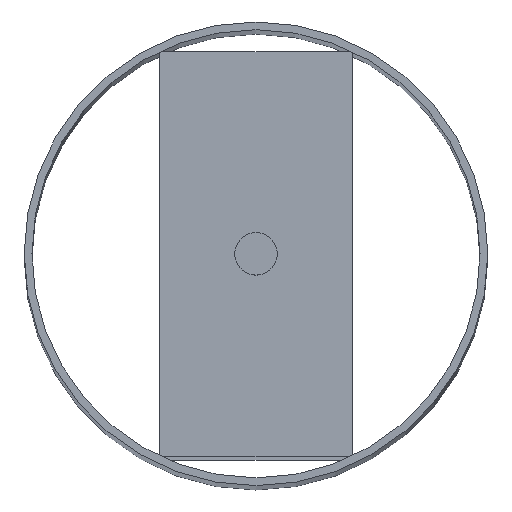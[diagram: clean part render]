
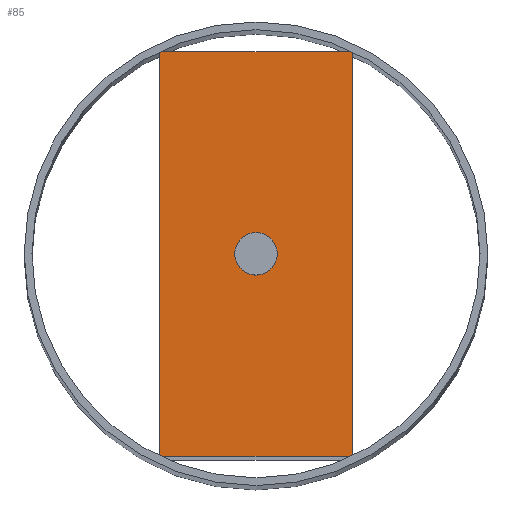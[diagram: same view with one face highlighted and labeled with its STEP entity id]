
A CAD part, top view. The second image highlights one B-rep face of the part: STEP entity #85.
In plain terms, the highlighted planar face has unit normal (0, 0, 1).
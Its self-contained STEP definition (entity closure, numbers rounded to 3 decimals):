
#85 = ADVANCED_FACE( '', ( #182, #183 ), #184, .T. );
#182 = FACE_BOUND( '', #271, .T. );
#183 = FACE_OUTER_BOUND( '', #272, .T. );
#184 = PLANE( '', #273 );
#271 = EDGE_LOOP( '', ( #463 ) );
#272 = EDGE_LOOP( '', ( #464, #465, #466, #467, #468, #469, #470, #471 ) );
#273 = AXIS2_PLACEMENT_3D( '', #472, #473, #474 );
#463 = ORIENTED_EDGE( '', *, *, #552, .T. );
#464 = ORIENTED_EDGE( '', *, *, #546, .T. );
#465 = ORIENTED_EDGE( '', *, *, #539, .T. );
#466 = ORIENTED_EDGE( '', *, *, #491, .T. );
#467 = ORIENTED_EDGE( '', *, *, #537, .T. );
#468 = ORIENTED_EDGE( '', *, *, #543, .T. );
#469 = ORIENTED_EDGE( '', *, *, #535, .T. );
#470 = ORIENTED_EDGE( '', *, *, #517, .T. );
#471 = ORIENTED_EDGE( '', *, *, #533, .T. );
#472 = CARTESIAN_POINT( '', ( 0., 0., 317. ) );
#473 = DIRECTION( '', ( 0., 0., 1. ) );
#474 = DIRECTION( '', ( 1., 0., 0. ) );
#491 = EDGE_CURVE( '', #581, #582, #583, .T. );
#517 = EDGE_CURVE( '', #625, #626, #627, .T. );
#533 = EDGE_CURVE( '', #626, #647, #649, .T. );
#535 = EDGE_CURVE( '', #650, #625, #652, .T. );
#537 = EDGE_CURVE( '', #582, #653, #655, .T. );
#539 = EDGE_CURVE( '', #656, #581, #658, .T. );
#543 = EDGE_CURVE( '', #653, #650, #663, .T. );
#546 = EDGE_CURVE( '', #647, #656, #666, .T. );
#552 = EDGE_CURVE( '', #672, #672, #673, .F. );
#581 = VERTEX_POINT( '', #710 );
#582 = VERTEX_POINT( '', #711 );
#583 = LINE( '', #712, #713 );
#625 = VERTEX_POINT( '', #766 );
#626 = VERTEX_POINT( '', #767 );
#627 = LINE( '', #768, #769 );
#647 = VERTEX_POINT( '', #793 );
#649 = CIRCLE( '', #796, 58. );
#650 = VERTEX_POINT( '', #797 );
#652 = CIRCLE( '', #800, 58. );
#653 = VERTEX_POINT( '', #801 );
#655 = CIRCLE( '', #804, 58. );
#656 = VERTEX_POINT( '', #805 );
#658 = CIRCLE( '', #808, 58. );
#663 = LINE( '', #813, #814 );
#666 = LINE( '', #817, #818 );
#672 = VERTEX_POINT( '', #825 );
#673 = CIRCLE( '', #826, 5.5 );
#710 = CARTESIAN_POINT( '', ( 24.97, 52.35, 317. ) );
#711 = CARTESIAN_POINT( '', ( -24.97, 52.35, 317. ) );
#712 = CARTESIAN_POINT( '', ( 25., 52.35, 317. ) );
#713 = VECTOR( '', #845, 1000. );
#766 = CARTESIAN_POINT( '', ( -24.97, -52.35, 317. ) );
#767 = CARTESIAN_POINT( '', ( 24.97, -52.35, 317. ) );
#768 = CARTESIAN_POINT( '', ( -25., -52.35, 317. ) );
#769 = VECTOR( '', #887, 1000. );
#793 = CARTESIAN_POINT( '', ( 25., -52.335, 317. ) );
#796 = AXIS2_PLACEMENT_3D( '', #914, #915, #916 );
#797 = CARTESIAN_POINT( '', ( -25., -52.335, 317. ) );
#800 = AXIS2_PLACEMENT_3D( '', #918, #919, #920 );
#801 = CARTESIAN_POINT( '', ( -25., 52.335, 317. ) );
#804 = AXIS2_PLACEMENT_3D( '', #922, #923, #924 );
#805 = CARTESIAN_POINT( '', ( 25., 52.335, 317. ) );
#808 = AXIS2_PLACEMENT_3D( '', #926, #927, #928 );
#813 = CARTESIAN_POINT( '', ( -25., 52.35, 317. ) );
#814 = VECTOR( '', #932, 1000. );
#817 = CARTESIAN_POINT( '', ( 25., -52.35, 317. ) );
#818 = VECTOR( '', #933, 1000. );
#825 = CARTESIAN_POINT( '', ( 5.5, 0., 317. ) );
#826 = AXIS2_PLACEMENT_3D( '', #935, #936, #937 );
#845 = DIRECTION( '', ( -1., 0., 0. ) );
#887 = DIRECTION( '', ( 1., 0., 0. ) );
#914 = CARTESIAN_POINT( '', ( 0., 0., 317. ) );
#915 = DIRECTION( '', ( 0., 0., 1. ) );
#916 = DIRECTION( '', ( 1., 0., 0. ) );
#918 = CARTESIAN_POINT( '', ( 0., 0., 317. ) );
#919 = DIRECTION( '', ( 0., 0., 1. ) );
#920 = DIRECTION( '', ( 1., 0., 0. ) );
#922 = CARTESIAN_POINT( '', ( 0., 0., 317. ) );
#923 = DIRECTION( '', ( 0., 0., 1. ) );
#924 = DIRECTION( '', ( 1., 0., 0. ) );
#926 = CARTESIAN_POINT( '', ( 0., 0., 317. ) );
#927 = DIRECTION( '', ( 0., 0., 1. ) );
#928 = DIRECTION( '', ( 1., 0., 0. ) );
#932 = DIRECTION( '', ( 0., -1., 0. ) );
#933 = DIRECTION( '', ( 0., 1., 0. ) );
#935 = CARTESIAN_POINT( '', ( 0., 0., 317. ) );
#936 = DIRECTION( '', ( 0., 0., 1. ) );
#937 = DIRECTION( '', ( 1., 0., 0. ) );
